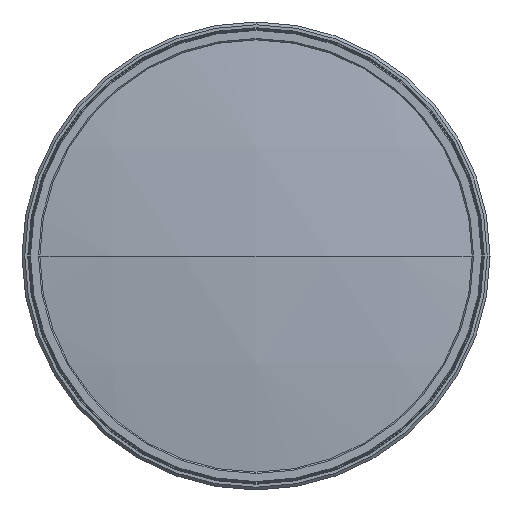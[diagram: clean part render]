
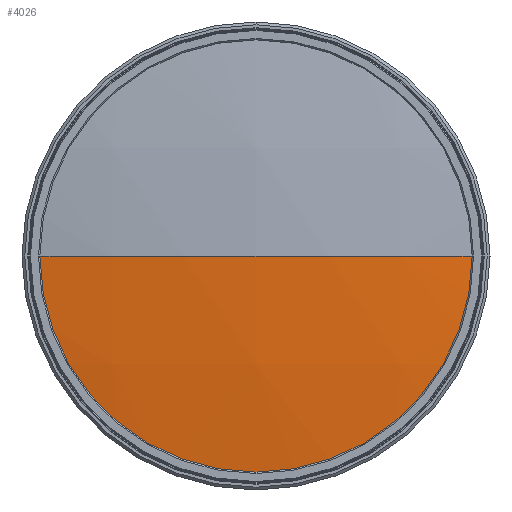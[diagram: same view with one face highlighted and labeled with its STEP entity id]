
A CAD part, left-side view. The second image highlights one B-rep face of the part: STEP entity #4026.
In plain terms, the highlighted spherical face has radius 520 mm.
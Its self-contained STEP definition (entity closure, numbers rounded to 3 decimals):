
#8 = ORIENTED_EDGE ( 'NONE', *, *, #2854, .F. ) ;
#59 = DIRECTION ( 'NONE',  ( 0., 0., -1. ) ) ;
#249 = CIRCLE ( 'NONE', #1449, 76.65 ) ;
#349 = DIRECTION ( 'NONE',  ( -1., 0., 0. ) ) ;
#357 = CIRCLE ( 'NONE', #944, 76.65 ) ;
#377 = DIRECTION ( 'NONE',  ( -1., 0., 0. ) ) ;
#458 = FACE_OUTER_BOUND ( 'NONE', #3518, .T. ) ;
#509 = ORIENTED_EDGE ( 'NONE', *, *, #4116, .T. ) ;
#579 = DIRECTION ( 'NONE',  ( 0., 1., 0. ) ) ;
#701 = VERTEX_POINT ( 'NONE', #3338 ) ;
#944 = AXIS2_PLACEMENT_3D ( 'NONE', #2310, #349, #2643 ) ;
#1442 = ORIENTED_EDGE ( 'NONE', *, *, #3378, .T. ) ;
#1449 = AXIS2_PLACEMENT_3D ( 'NONE', #2341, #377, #2672 ) ;
#1481 = AXIS2_PLACEMENT_3D ( 'NONE', #2030, #59, #2363 ) ;
#1642 = DIRECTION ( 'NONE',  ( 0., 0., 1. ) ) ;
#1746 = VERTEX_POINT ( 'NONE', #3811 ) ;
#1867 = CARTESIAN_POINT ( 'NONE',  ( 216.5, 0., 0. ) ) ;
#2030 = CARTESIAN_POINT ( 'NONE',  ( 216.5, 0., 0. ) ) ;
#2170 = AXIS2_PLACEMENT_3D ( 'NONE', #3622, #1642, #3952 ) ;
#2310 = CARTESIAN_POINT ( 'NONE',  ( -297.82, 0., 0. ) ) ;
#2335 = EDGE_CURVE ( 'NONE', #3610, #701, #357, .T. ) ;
#2341 = CARTESIAN_POINT ( 'NONE',  ( -297.82, 0., 0. ) ) ;
#2363 = DIRECTION ( 'NONE',  ( 0., 1., 0. ) ) ;
#2436 = ORIENTED_EDGE ( 'NONE', *, *, #2335, .T. ) ;
#2547 = DIRECTION ( 'NONE',  ( 0., 0., -1. ) ) ;
#2555 = CARTESIAN_POINT ( 'NONE',  ( -297.82, 76.65, 0. ) ) ;
#2643 = DIRECTION ( 'NONE',  ( 0., 0., 1. ) ) ;
#2672 = DIRECTION ( 'NONE',  ( 0., 0., 1. ) ) ;
#2854 = EDGE_CURVE ( 'NONE', #3610, #1746, #3733, .T. ) ;
#3338 = CARTESIAN_POINT ( 'NONE',  ( -297.82, 0., -76.65 ) ) ;
#3378 = EDGE_CURVE ( 'NONE', #3602, #1746, #3604, .T. ) ;
#3518 = EDGE_LOOP ( 'NONE', ( #509, #1442, #8, #2436 ) ) ;
#3602 = VERTEX_POINT ( 'NONE', #3781 ) ;
#3604 = CIRCLE ( 'NONE', #1481, 520. ) ;
#3610 = VERTEX_POINT ( 'NONE', #2555 ) ;
#3622 = CARTESIAN_POINT ( 'NONE',  ( 216.5, 0., 0. ) ) ;
#3733 = CIRCLE ( 'NONE', #2170, 520. ) ;
#3781 = CARTESIAN_POINT ( 'NONE',  ( -297.82, -76.65, 0. ) ) ;
#3811 = CARTESIAN_POINT ( 'NONE',  ( -303.5, 0., 0. ) ) ;
#3952 = DIRECTION ( 'NONE',  ( 1., 0., 0. ) ) ;
#3957 = SPHERICAL_SURFACE ( 'NONE', #4186, 520. ) ;
#4026 = ADVANCED_FACE ( 'NONE', ( #458 ), #3957, .T. ) ;
#4116 = EDGE_CURVE ( 'NONE', #701, #3602, #249, .T. ) ;
#4186 = AXIS2_PLACEMENT_3D ( 'NONE', #1867, #2547, #579 ) ;
